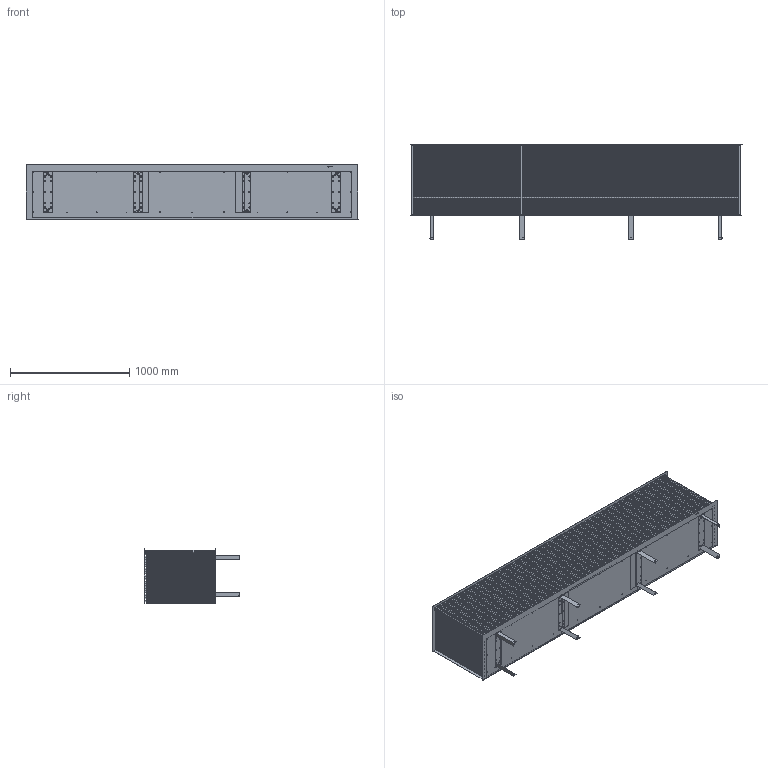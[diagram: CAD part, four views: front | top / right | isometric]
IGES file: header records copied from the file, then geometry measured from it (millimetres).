
Start section: SolidWorks IGES file using analytic representation for surfaces
Global section: file name: \\UTENTI\Dati Utenti\Tecnico\DC\2D - 3D per sito\3D\DeCastelli-3D-Elizabeth 273 Sideboard.igs; native system: SolidWorks 2022; preprocessor: SolidWorks 2022; author: maria; date: 240712.144548; units: millimetre
Bounding box: 2787.8 x 799.5 x 463 mm (x, y, z)
Surface area: 12393016 mm2 (no closed solid volume)
Topology: 0 solids, 0 shells, 1037 faces, 10676 edges, 10672 vertices
Faces by surface type: bspline 701, revolution 336
